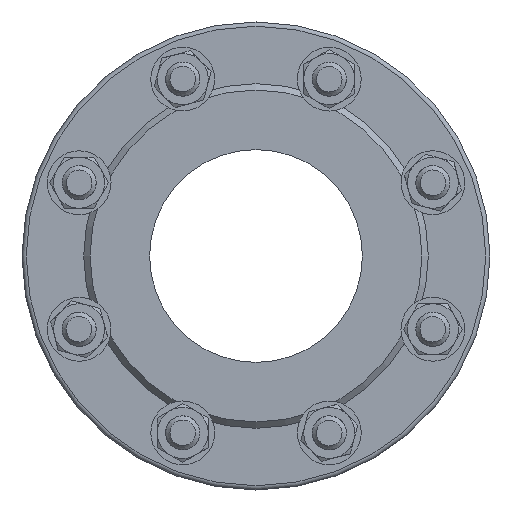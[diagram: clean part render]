
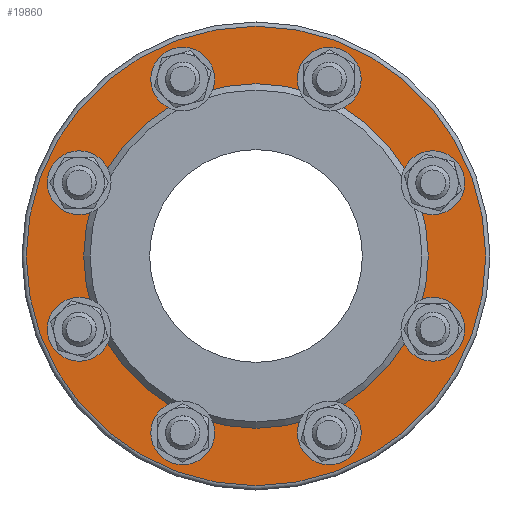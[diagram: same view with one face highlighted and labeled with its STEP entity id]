
A CAD part, left-side view. The second image highlights one B-rep face of the part: STEP entity #19860.
In plain terms, the highlighted planar face has unit normal (-1, 0, 0).
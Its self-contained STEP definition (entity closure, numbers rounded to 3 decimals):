
#153 = CIRCLE ( 'NONE', #8016, 8. ) ;
#513 = CARTESIAN_POINT ( 'NONE',  ( -8., 34.442, -83.149 ) ) ;
#677 = CARTESIAN_POINT ( 'NONE',  ( -8., -34.442, -83.149 ) ) ;
#1879 = CARTESIAN_POINT ( 'NONE',  ( -8., -34.442, 83.149 ) ) ;
#2021 = VERTEX_POINT ( 'NONE', #10847 ) ;
#3071 = CIRCLE ( 'NONE', #28529, 8. ) ;
#3460 = ORIENTED_EDGE ( 'NONE', *, *, #27934, .T. ) ;
#4036 = EDGE_LOOP ( 'NONE', ( #16613 ) ) ;
#4484 = CIRCLE ( 'NONE', #15575, 8. ) ;
#5456 = DIRECTION ( 'NONE',  ( -1., 0., 0. ) ) ;
#5596 = VERTEX_POINT ( 'NONE', #20664 ) ;
#5609 = FACE_BOUND ( 'NONE', #19573, .T. ) ;
#5748 = DIRECTION ( 'NONE',  ( 0., 0., -1. ) ) ;
#5906 = CIRCLE ( 'NONE', #21634, 8. ) ;
#6655 = AXIS2_PLACEMENT_3D ( 'NONE', #8763, #26736, #13521 ) ;
#6778 = CIRCLE ( 'NONE', #22525, 8. ) ;
#6902 = VERTEX_POINT ( 'NONE', #22409 ) ;
#7465 = DIRECTION ( 'NONE',  ( 0., 0., -1. ) ) ;
#7925 = DIRECTION ( 'NONE',  ( 1., 0., 0. ) ) ;
#8016 = AXIS2_PLACEMENT_3D ( 'NONE', #513, #8898, #13527 ) ;
#8205 = ORIENTED_EDGE ( 'NONE', *, *, #10008, .F. ) ;
#8311 = EDGE_LOOP ( 'NONE', ( #9504 ) ) ;
#8401 = VERTEX_POINT ( 'NONE', #15210 ) ;
#8763 = CARTESIAN_POINT ( 'NONE',  ( -8., 0., 0. ) ) ;
#8898 = DIRECTION ( 'NONE',  ( -1., 0., 0. ) ) ;
#8999 = EDGE_CURVE ( 'NONE', #12601, #12601, #4484, .T. ) ;
#9504 = ORIENTED_EDGE ( 'NONE', *, *, #25114, .F. ) ;
#9524 = AXIS2_PLACEMENT_3D ( 'NONE', #25801, #27691, #9987 ) ;
#9593 = EDGE_LOOP ( 'NONE', ( #3460 ) ) ;
#9843 = EDGE_CURVE ( 'NONE', #8401, #8401, #5906, .T. ) ;
#9987 = DIRECTION ( 'NONE',  ( 0., 0., -1. ) ) ;
#10008 = EDGE_CURVE ( 'NONE', #24062, #24062, #3071, .T. ) ;
#10168 = DIRECTION ( 'NONE',  ( 0., 0., -1. ) ) ;
#10235 = FACE_BOUND ( 'NONE', #4036, .T. ) ;
#10561 = EDGE_LOOP ( 'NONE', ( #20728 ) ) ;
#10847 = CARTESIAN_POINT ( 'NONE',  ( -8., 34.442, -91.149 ) ) ;
#10880 = EDGE_CURVE ( 'NONE', #23918, #23918, #20529, .T. ) ;
#10926 = ORIENTED_EDGE ( 'NONE', *, *, #10880, .F. ) ;
#11738 = CIRCLE ( 'NONE', #27023, 8. ) ;
#11809 = CARTESIAN_POINT ( 'NONE',  ( -8., 83.149, 34.442 ) ) ;
#11948 = EDGE_LOOP ( 'NONE', ( #10926 ) ) ;
#12017 = EDGE_CURVE ( 'NONE', #2021, #2021, #153, .T. ) ;
#12410 = PLANE ( 'NONE',  #22292 ) ;
#12601 = VERTEX_POINT ( 'NONE', #19705 ) ;
#12683 = FACE_BOUND ( 'NONE', #12980, .T. ) ;
#12737 = ORIENTED_EDGE ( 'NONE', *, *, #9843, .F. ) ;
#12980 = EDGE_LOOP ( 'NONE', ( #23419 ) ) ;
#13328 = CARTESIAN_POINT ( 'NONE',  ( -8., 83.149, -34.442 ) ) ;
#13521 = DIRECTION ( 'NONE',  ( 0., 0., 1. ) ) ;
#13527 = DIRECTION ( 'NONE',  ( 0., 0., -1. ) ) ;
#13692 = CIRCLE ( 'NONE', #24354, 8. ) ;
#13757 = DIRECTION ( 'NONE',  ( -1., 0., 0. ) ) ;
#13761 = EDGE_LOOP ( 'NONE', ( #17454 ) ) ;
#14107 = AXIS2_PLACEMENT_3D ( 'NONE', #11809, #20661, #7465 ) ;
#14141 = DIRECTION ( 'NONE',  ( 0., 0., -1. ) ) ;
#14422 = VERTEX_POINT ( 'NONE', #20943 ) ;
#14434 = FACE_BOUND ( 'NONE', #19883, .T. ) ;
#14583 = CARTESIAN_POINT ( 'NONE',  ( -8., 110., 0. ) ) ;
#14668 = DIRECTION ( 'NONE',  ( -1., 0., 0. ) ) ;
#14789 = CARTESIAN_POINT ( 'NONE',  ( -8., -83.149, 26.442 ) ) ;
#14814 = CARTESIAN_POINT ( 'NONE',  ( -8., -83.149, -34.442 ) ) ;
#15210 = CARTESIAN_POINT ( 'NONE',  ( -8., 83.149, -42.442 ) ) ;
#15465 = DIRECTION ( 'NONE',  ( 0., 0., -1. ) ) ;
#15575 = AXIS2_PLACEMENT_3D ( 'NONE', #22151, #22003, #26496 ) ;
#16021 = VERTEX_POINT ( 'NONE', #18186 ) ;
#16613 = ORIENTED_EDGE ( 'NONE', *, *, #28091, .F. ) ;
#17401 = CIRCLE ( 'NONE', #9524, 108. ) ;
#17454 = ORIENTED_EDGE ( 'NONE', *, *, #8999, .F. ) ;
#17757 = VERTEX_POINT ( 'NONE', #19943 ) ;
#18114 = DIRECTION ( 'NONE',  ( 0., 0., -1. ) ) ;
#18156 = ORIENTED_EDGE ( 'NONE', *, *, #27616, .F. ) ;
#18186 = CARTESIAN_POINT ( 'NONE',  ( -8., -34.442, 75.149 ) ) ;
#18784 = FACE_BOUND ( 'NONE', #13761, .T. ) ;
#18837 = CARTESIAN_POINT ( 'NONE',  ( -8., -83.149, 34.442 ) ) ;
#19076 = FACE_OUTER_BOUND ( 'NONE', #9593, .T. ) ;
#19573 = EDGE_LOOP ( 'NONE', ( #18156 ) ) ;
#19681 = CIRCLE ( 'NONE', #14107, 8. ) ;
#19705 = CARTESIAN_POINT ( 'NONE',  ( -8., 34.442, 75.149 ) ) ;
#19860 = ADVANCED_FACE ( 'NONE', ( #18784, #27647, #5609, #14434, #12683, #27932, #10235, #21111, #19076, #23712 ), #12410, .F. ) ;
#19883 = EDGE_LOOP ( 'NONE', ( #12737 ) ) ;
#19943 = CARTESIAN_POINT ( 'NONE',  ( -8., -34.442, -91.149 ) ) ;
#20529 = CIRCLE ( 'NONE', #6655, 81. ) ;
#20661 = DIRECTION ( 'NONE',  ( -1., 0., 0. ) ) ;
#20664 = CARTESIAN_POINT ( 'NONE',  ( -8., -83.149, -42.442 ) ) ;
#20728 = ORIENTED_EDGE ( 'NONE', *, *, #12017, .F. ) ;
#20943 = CARTESIAN_POINT ( 'NONE',  ( -8., 0., -108. ) ) ;
#21111 = FACE_BOUND ( 'NONE', #25203, .T. ) ;
#21315 = CARTESIAN_POINT ( 'NONE',  ( -8., 0., 81. ) ) ;
#21634 = AXIS2_PLACEMENT_3D ( 'NONE', #13328, #13757, #18114 ) ;
#22003 = DIRECTION ( 'NONE',  ( -1., 0., 0. ) ) ;
#22151 = CARTESIAN_POINT ( 'NONE',  ( -8., 34.442, 83.149 ) ) ;
#22292 = AXIS2_PLACEMENT_3D ( 'NONE', #14583, #7925, #5748 ) ;
#22409 = CARTESIAN_POINT ( 'NONE',  ( -8., 83.149, 26.442 ) ) ;
#22525 = AXIS2_PLACEMENT_3D ( 'NONE', #1879, #28388, #15465 ) ;
#23419 = ORIENTED_EDGE ( 'NONE', *, *, #24232, .F. ) ;
#23712 = FACE_BOUND ( 'NONE', #11948, .T. ) ;
#23918 = VERTEX_POINT ( 'NONE', #21315 ) ;
#24062 = VERTEX_POINT ( 'NONE', #14789 ) ;
#24232 = EDGE_CURVE ( 'NONE', #17757, #17757, #11738, .T. ) ;
#24354 = AXIS2_PLACEMENT_3D ( 'NONE', #14814, #14668, #10168 ) ;
#25087 = DIRECTION ( 'NONE',  ( 0., 0., -1. ) ) ;
#25114 = EDGE_CURVE ( 'NONE', #6902, #6902, #19681, .T. ) ;
#25203 = EDGE_LOOP ( 'NONE', ( #8205 ) ) ;
#25233 = DIRECTION ( 'NONE',  ( -1., 0., 0. ) ) ;
#25801 = CARTESIAN_POINT ( 'NONE',  ( -8., 0., 0. ) ) ;
#26496 = DIRECTION ( 'NONE',  ( 0., 0., -1. ) ) ;
#26736 = DIRECTION ( 'NONE',  ( -1., 0., 0. ) ) ;
#27023 = AXIS2_PLACEMENT_3D ( 'NONE', #677, #5456, #14141 ) ;
#27616 = EDGE_CURVE ( 'NONE', #5596, #5596, #13692, .T. ) ;
#27647 = FACE_BOUND ( 'NONE', #10561, .T. ) ;
#27691 = DIRECTION ( 'NONE',  ( -1., 0., 0. ) ) ;
#27932 = FACE_BOUND ( 'NONE', #8311, .T. ) ;
#27934 = EDGE_CURVE ( 'NONE', #14422, #14422, #17401, .T. ) ;
#28091 = EDGE_CURVE ( 'NONE', #16021, #16021, #6778, .T. ) ;
#28388 = DIRECTION ( 'NONE',  ( -1., 0., 0. ) ) ;
#28529 = AXIS2_PLACEMENT_3D ( 'NONE', #18837, #25233, #25087 ) ;
